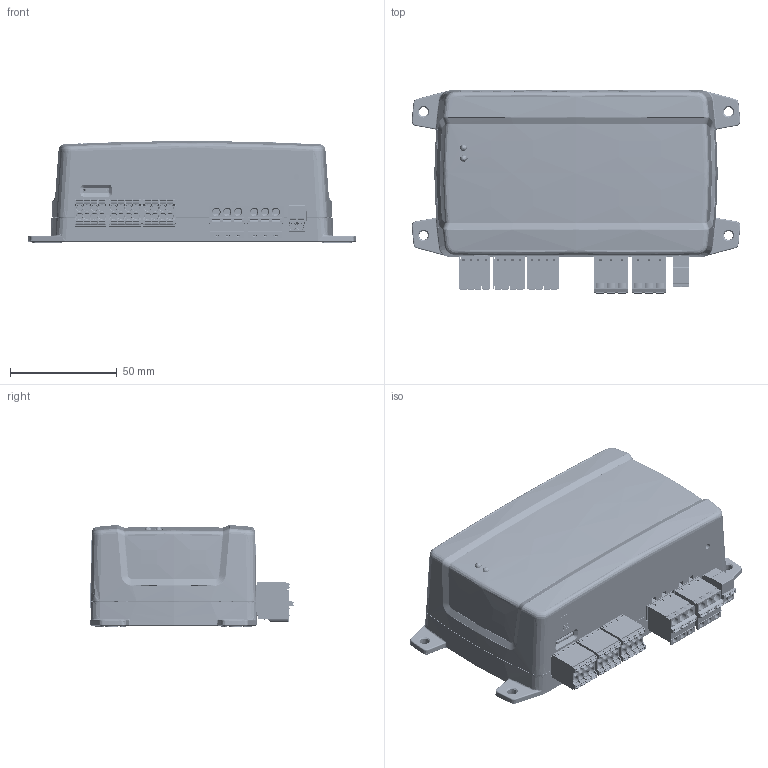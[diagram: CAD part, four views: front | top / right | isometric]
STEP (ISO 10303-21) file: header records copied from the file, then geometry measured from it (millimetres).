
FILE_DESCRIPTION (( 'STEP AP214' ), '1' );
FILE_NAME ('DimensionDrawing_CerboGX-rev01-3D.STEP', '2025-10-07T08:55:31', ( '' ), ( '' ), 'SwSTEP 2.0', 'SolidWorks 2025', '' );
FILE_SCHEMA (( 'AUTOMOTIVE_DESIGN' ));
Length unit declared in the file: millimetre
Products named in the file (111): 32564.1271.335A100; ECS-240-18-33-JGN-TR; PCB Component_1; MUN5311DW1G; Venus_Base - Lightpipe_A_190423; 2671758; EEH-ZA1K220P; Board; Cerbo_GX_CPU_A6; 100nF,10V; SOCKETHEADER-1x06; PKM13EPYH4000; FRAME-RGY0020B_AF0; HF41F_5-ZS; BAT-HLD-001; LPV1301.9501; MC-146 32.7680KA-A0; S4B-PH-K-S; 10k_1; WJ2EDGKD-5.08-03P; 0ZCJ0005FF2E; LPS4018-222MR,DNP; CARD; Cerbo_GX_IO_A6; 32564.0571.335A100; 95501-2881; body_ssop28; 10pF,DNP; Cerbo_GX_Base - Housing_Top_B_190513; BLM18KG221SN1D_1; TPD4E05U06; 10uF,6.3V_1; SI8641BB-B-IS1; ECS-160-18-33-JGN-TR; PIC18F2XK22-SSOP_VICTRON_CUSTOM; WJ15EDGVHC-THR-3.5-2x04P; EEEFT1A151AR; MMSZ4689T1G,DNP; BAT54C,DNP; LAN8710A-EZK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
Assembly tree (474 placements, depth 8):
  DimensionDrawing_CerboGX-rev01-3D
    Cerbo_GX_Base - Housing_Bottom_B_190513
    Cerbo_GX_Base - Housing_Top_B_190513
    Venus_Base - Lightpipe_A_190423  x2
    Cerbo_GX_A6 v3
      Cerbo_GX_CPU_A6
        PCB Component
          Board
          10pF,DNP  x35
          10uF,6.3V  x9
          1nF,2kV
          XBP1013  x6
          TPD4E05U06
            BODY-SON
            FRAME-DQA0010A
          TPD4E05U06_1
            BODY-SON
            FRAME-DQA0010A
          TPD4E05U06_2
            BODY-SON
            FRAME-DQA0010A
          RTL8723BU
          LAN8710A-EZK
          EINSTEIN-A20
          Si8422AB-D-IS  x3
          SN74LVC2G241DCU
          PCA9527DP
          CAT24C02TDI-GT3A ,DNP
          XWRJ-1104F5002-2
          S4B-PH-K-S  x3
          SOCKETHEADER-1x06
          BLM18KG221SN1D  x9
          BLM31KN271SN1L
          10k  x52
          1M
          CAT16-220J4LF  x9
          A-1JB,DNP
          ECS-240-18-33-JGN-TR  x2
          LCFE201202A900TG  x3
          EEEFT1A151AR
          LPV1301.9501
          BSS138
          blue
          DM3BT-DSF-PEJS
            7282325
              CARD (1)
                CARD
              DM3BT (1)
                DM3BT (2)
          SSM6N7002CFU  x2
          LTST-C195KGJRKT
          TPS2067
          0ZCJ0005FF2E
          BAT54C
          USB2422
          PKM13EPYH4000
          2206.13.1B00
          32564.0571.335A100
          32564.1271.335A100
      Cerbo_GX_IO_A6
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Bounding box: 153.94 x 95.29 x 47.87 mm (x, y, z)
Volume: 164920.6 mm3; surface area: 202320 mm2
Topology: 686 solids, 720 shells, 46990 faces, 128337 edges, 78147 vertices
Faces by surface type: plane 27325, cylinder 12092, bspline 6613, cone 489, torus 266, sphere 205
Entity records: 627418 total; most frequent: CARTESIAN_POINT 158103, ORIENTED_EDGE 99436, DIRECTION 90126, EDGE_CURVE 49726, LINE 34566, VECTOR 34566, VERTEX_POINT 32180, AXIS2_PLACEMENT_3D 27780
